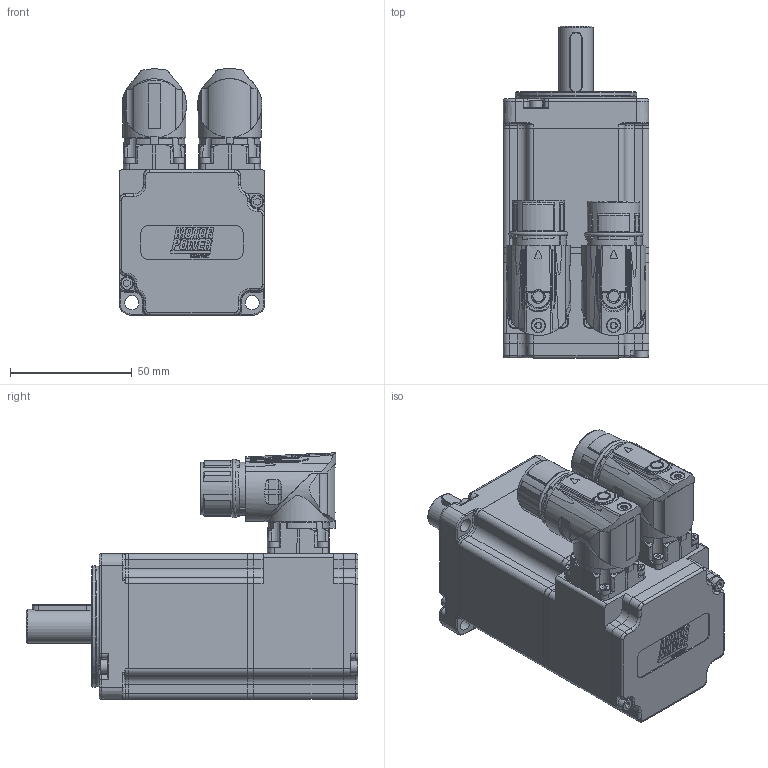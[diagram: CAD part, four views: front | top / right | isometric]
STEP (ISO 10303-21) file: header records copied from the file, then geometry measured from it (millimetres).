
FILE_DESCRIPTION(/* description */ ('Unknown'),/* implementation_level */ '2;1');
FILE_NAME(/* name */ 'TC4-60.2A.XX.X.3.M1.0.1.C2.39.00 Q0C134',/* time_stamp */ '2026-03-03T14:18:45+01:00',/* author */ ('Unknown'),/* organization */ ('Unknown'),/* preprocessor_version */ 'ST-DEVELOPER v19.4',/* originating_system */ 'Solid Edge',/* authorisation */ 'Unknown');
FILE_SCHEMA (('AUTOMOTIVE_DESIGN {1 0 10303 214 3 1 1}'));
Products named in the file (14): Q0C134 2A M1 VUOTO; 005911000171; 005119001310; 003155002235; 005113000400; 003103040220; 005911000192; 003107003285; 003003200338; 007117000456; 005911000495; 007117000454; 003151003163; 003251040722
Assembly tree (24 placements, depth 2):
  Q0C134 2A M1 VUOTO
    005911000171  x8
    005119001310
    003155002235
    005113000400
    003103040220
    005911000192  x2
    003107003285
    003003200338
    007117000456
    005911000495  x4
    007117000454
    003151003163
    003251040722
Bounding box: 60 x 136.5 x 101.5 mm (x, y, z)
Volume: 182462.7 mm3; surface area: 111524.1 mm2
Topology: 25 solids, 26 shells, 2320 faces, 5797 edges, 3696 vertices
Faces by surface type: plane 994, cylinder 543, bspline 333, cone 269, torus 134, sphere 47
Full cylindrical faces by diameter (mm): 0.5 x1, 1 x21, 1.2 x17, 1.4 x4, 2 x4, 2.013 x20, 2.459 x16, 2.5 x9, 2.8 x4, 3 x22, 3.2 x1, 3.5 x8, 4.134 x1, 4.5 x2, 4.7 x8, 5 x4, 5.25 x4, 5.3 x1, 5.5 x8, 5.8 x5, 5.9 x2, 6 x1, 6.8 x1, 9.99 x1, 10 x1, 13 x1, 14 x2, 14.99 x1, 15 x1, 15.2 x1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
Entity records: 83536 total; most frequent: CARTESIAN_POINT 23854, ORIENTED_EDGE 9830, DIRECTION 9153, EDGE_CURVE 4915, AXIS2_PLACEMENT_3D 3475, VERTEX_POINT 3360, FACE_BOUND 2809, EDGE_LOOP 2789
